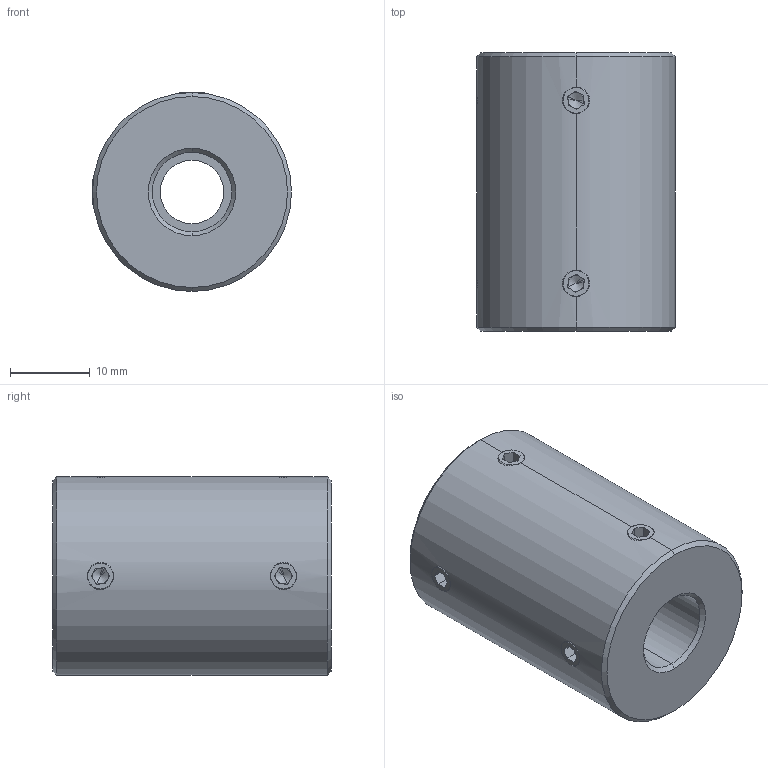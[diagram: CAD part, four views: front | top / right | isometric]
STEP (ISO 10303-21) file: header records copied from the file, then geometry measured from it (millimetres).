
FILE_DESCRIPTION (( 'STEP AP214' ), '1' );
FILE_NAME ('LL-D-D25L35-8-10½¨Ä£.STEP', '2022-07-23T00:41:04', ( '' ), ( '' ), 'SwSTEP 2.0', 'SolidWorks 2022', '' );
FILE_SCHEMA (( 'AUTOMOTIVE_DESIGN' ));
Length unit declared in the file: millimetre
Products named in the file (1): LL-D-D25L35-8-10膘耀
Bounding box: 25 x 35 x 25 mm (x, y, z)
Volume: 14735 mm3; surface area: 4796.4 mm2
Topology: 1 solids, 1 shells, 113 faces, 286 edges, 176 vertices
Faces by surface type: plane 59, cone 32, cylinder 22
Entity records: 3726 total; most frequent: CARTESIAN_POINT 1016, DIRECTION 558, ORIENTED_EDGE 556, EDGE_CURVE 278, AXIS2_PLACEMENT_3D 206, VERTEX_POINT 176, VECTOR 146, LINE 146
